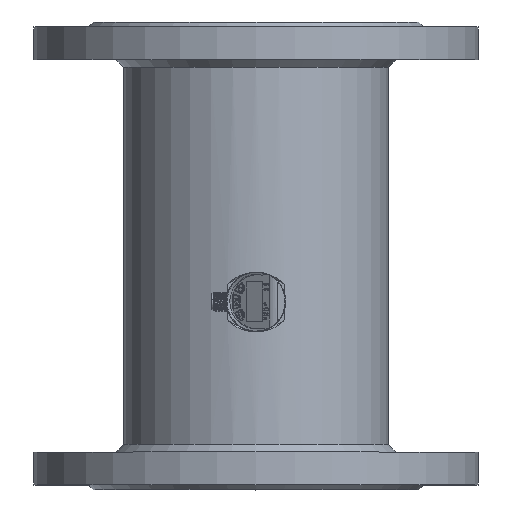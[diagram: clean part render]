
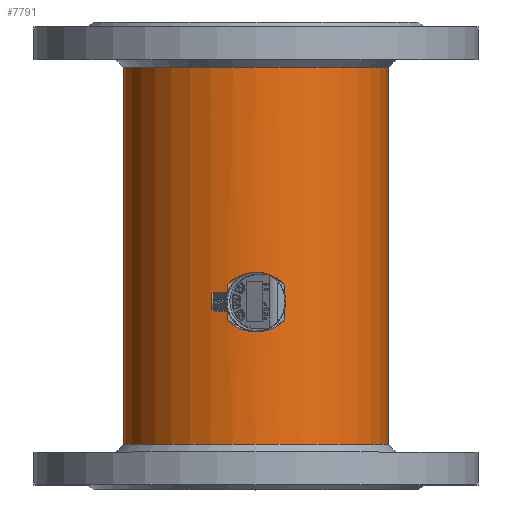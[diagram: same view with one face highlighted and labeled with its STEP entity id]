
A CAD part, top view. The second image highlights one B-rep face of the part: STEP entity #7791.
In plain terms, the highlighted cylindrical face has radius 85 mm (diameter 170 mm), a full revolution.
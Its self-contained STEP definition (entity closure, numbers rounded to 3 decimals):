
#6038=CYLINDRICAL_SURFACE('',#22944,85.);
#6810=B_SPLINE_CURVE_WITH_KNOTS('',3,(#43307,#43308,#43309,#43310,#43311,
#43312,#43313,#43314,#43315,#43316),.UNSPECIFIED.,.F.,.F.,(4,2,2,2,4),(0.,
0.25,0.5,0.75,1.),.UNSPECIFIED.);
#6811=B_SPLINE_CURVE_WITH_KNOTS('',3,(#43317,#43318,#43319,#43320,#43321,
#43322,#43323,#43324,#43325,#43326),.UNSPECIFIED.,.F.,.F.,(4,2,2,2,4),(0.,
0.25,0.5,0.75,1.),.UNSPECIFIED.);
#7791=ADVANCED_FACE('',(#8664,#8665,#8666),#6038,.T.);
#8664=FACE_BOUND('',#9963,.T.);
#8665=FACE_BOUND('',#9964,.T.);
#8666=FACE_BOUND('',#9965,.T.);
#9963=EDGE_LOOP('',(#15286,#15287,#15288,#15289));
#9964=EDGE_LOOP('',(#15290));
#9965=EDGE_LOOP('',(#15291));
#10651=CIRCLE('',#22942,85.);
#10652=CIRCLE('',#22943,85.);
#15286=ORIENTED_EDGE('',*,*,#19293,.F.);
#15287=ORIENTED_EDGE('',*,*,#19297,.T.);
#15288=ORIENTED_EDGE('',*,*,#19295,.F.);
#15289=ORIENTED_EDGE('',*,*,#19298,.T.);
#15290=ORIENTED_EDGE('',*,*,#19299,.T.);
#15291=ORIENTED_EDGE('',*,*,#19300,.T.);
#16947=VERTEX_POINT('',#43287);
#16948=VERTEX_POINT('',#43288);
#16949=VERTEX_POINT('',#43290);
#16950=VERTEX_POINT('',#43301);
#16952=VERTEX_POINT('',#43328);
#16953=VERTEX_POINT('',#43330);
#19293=EDGE_CURVE('',#16948,#16949,#20315,.T.);
#19295=EDGE_CURVE('',#16950,#16947,#20316,.T.);
#19297=EDGE_CURVE('',#16948,#16947,#6810,.T.);
#19298=EDGE_CURVE('',#16950,#16949,#6811,.T.);
#19299=EDGE_CURVE('',#16952,#16952,#10651,.T.);
#19300=EDGE_CURVE('',#16953,#16953,#10652,.T.);
#20315=LINE('',#43289,#21475);
#20316=LINE('',#43302,#21476);
#21475=VECTOR('',#27065,1.);
#21476=VECTOR('',#27066,1.);
#22942=AXIS2_PLACEMENT_3D('',#43327,#27073,#27074);
#22943=AXIS2_PLACEMENT_3D('',#43329,#27075,#27076);
#22944=AXIS2_PLACEMENT_3D('',#43331,#27077,#27078);
#27065=DIRECTION('',(0.,1.,0.));
#27066=DIRECTION('',(0.,-1.,0.));
#27073=DIRECTION('',(0.,1.,0.));
#27074=DIRECTION('',(0.,0.,1.));
#27075=DIRECTION('',(0.,-1.,0.));
#27076=DIRECTION('',(0.,0.,-1.));
#27077=DIRECTION('',(0.,1.,0.));
#27078=DIRECTION('',(0.,0.,-1.));
#43287=CARTESIAN_POINT('',(7.17,25.003,-97.224));
#43288=CARTESIAN_POINT('',(43.83,25.003,-97.224));
#43289=CARTESIAN_POINT('',(43.83,952.558,-97.224));
#43290=CARTESIAN_POINT('',(43.83,47.796,-97.224));
#43301=CARTESIAN_POINT('',(7.17,47.798,-97.224));
#43302=CARTESIAN_POINT('',(7.17,952.558,-97.224));
#43307=CARTESIAN_POINT('',(43.83,25.003,-97.224));
#43308=CARTESIAN_POINT('',(41.517,22.469,-96.713));
#43309=CARTESIAN_POINT('',(38.627,20.533,-96.185));
#43310=CARTESIAN_POINT('',(32.351,17.936,-95.442));
#43311=CARTESIAN_POINT('',(28.904,17.257,-95.224));
#43312=CARTESIAN_POINT('',(22.061,17.264,-95.225));
#43313=CARTESIAN_POINT('',(18.633,17.938,-95.442));
#43314=CARTESIAN_POINT('',(12.309,20.565,-96.194));
#43315=CARTESIAN_POINT('',(9.484,22.467,-96.713));
#43316=CARTESIAN_POINT('',(7.17,25.003,-97.224));
#43317=CARTESIAN_POINT('',(7.17,47.798,-97.224));
#43318=CARTESIAN_POINT('',(9.484,50.329,-96.713));
#43319=CARTESIAN_POINT('',(12.374,52.264,-96.185));
#43320=CARTESIAN_POINT('',(18.647,54.868,-95.442));
#43321=CARTESIAN_POINT('',(22.096,55.54,-95.224));
#43322=CARTESIAN_POINT('',(28.937,55.539,-95.225));
#43323=CARTESIAN_POINT('',(32.366,54.866,-95.442));
#43324=CARTESIAN_POINT('',(38.687,52.234,-96.193));
#43325=CARTESIAN_POINT('',(41.515,50.334,-96.713));
#43326=CARTESIAN_POINT('',(43.83,47.796,-97.224));
#43327=CARTESIAN_POINT('',(25.5,-54.842,-180.224));
#43328=CARTESIAN_POINT('',(25.5,-54.842,-95.224));
#43329=CARTESIAN_POINT('',(25.5,187.158,-180.224));
#43330=CARTESIAN_POINT('',(25.5,187.158,-265.224));
#43331=CARTESIAN_POINT('',(25.5,952.558,-180.224));
